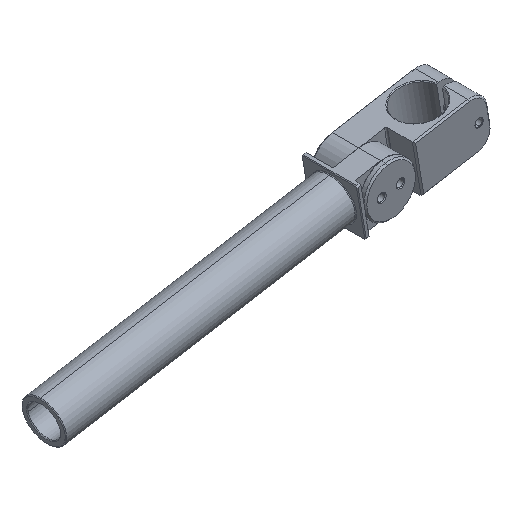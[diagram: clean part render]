
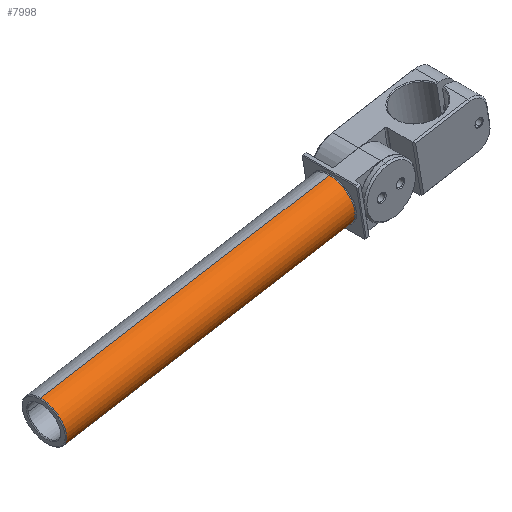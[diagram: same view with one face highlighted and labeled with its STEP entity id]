
A CAD part, isometric view. The second image highlights one B-rep face of the part: STEP entity #7998.
In plain terms, the highlighted cylindrical face has radius 15 mm (diameter 30 mm), a partial arc.
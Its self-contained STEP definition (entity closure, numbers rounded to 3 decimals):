
#518 = CARTESIAN_POINT ( 'NONE',  ( -210.487, 26.764, -83.005 ) ) ;
#695 = LINE ( 'NONE', #4764, #10386 ) ;
#720 = CYLINDRICAL_SURFACE ( 'NONE', #3135, 15. ) ;
#1299 = CIRCLE ( 'NONE', #3441, 15. ) ;
#1349 = VERTEX_POINT ( 'NONE', #5358 ) ;
#1492 = FACE_OUTER_BOUND ( 'NONE', #1937, .T. ) ;
#1726 = CIRCLE ( 'NONE', #7959, 15. ) ;
#1837 = CARTESIAN_POINT ( 'NONE',  ( -212.992, 26.764, -68.216 ) ) ;
#1937 = EDGE_LOOP ( 'NONE', ( #5385, #9503, #7260, #7620 ) ) ;
#2223 = CARTESIAN_POINT ( 'NONE',  ( -16.787, 26.764, -34.978 ) ) ;
#2403 = DIRECTION ( 'NONE',  ( 0.986, 0., 0.167 ) ) ;
#2673 = DIRECTION ( 'NONE',  ( 0.167, 0., -0.986 ) ) ;
#3135 = AXIS2_PLACEMENT_3D ( 'NONE', #6613, #5777, #4116 ) ;
#3407 = EDGE_CURVE ( 'NONE', #8776, #7631, #1726, .T. ) ;
#3432 = VERTEX_POINT ( 'NONE', #4300 ) ;
#3441 = AXIS2_PLACEMENT_3D ( 'NONE', #2223, #5519, #7296 ) ;
#4116 = DIRECTION ( 'NONE',  ( 0.167, 0., -0.986 ) ) ;
#4300 = CARTESIAN_POINT ( 'NONE',  ( -14.282, 26.764, -49.767 ) ) ;
#4648 = CARTESIAN_POINT ( 'NONE',  ( -210.487, 26.764, -83.005 ) ) ;
#4764 = CARTESIAN_POINT ( 'NONE',  ( -215.497, 26.764, -53.426 ) ) ;
#5358 = CARTESIAN_POINT ( 'NONE',  ( -19.293, 26.764, -20.189 ) ) ;
#5385 = ORIENTED_EDGE ( 'NONE', *, *, #10118, .F. ) ;
#5519 = DIRECTION ( 'NONE',  ( -0.986, 0., -0.167 ) ) ;
#5777 = DIRECTION ( 'NONE',  ( 0.986, 0., 0.167 ) ) ;
#6178 = VECTOR ( 'NONE', #8197, 1000. ) ;
#6613 = CARTESIAN_POINT ( 'NONE',  ( -212.992, 26.764, -68.216 ) ) ;
#7260 = ORIENTED_EDGE ( 'NONE', *, *, #8876, .T. ) ;
#7296 = DIRECTION ( 'NONE',  ( 0., -1., 0. ) ) ;
#7620 = ORIENTED_EDGE ( 'NONE', *, *, #9286, .T. ) ;
#7631 = VERTEX_POINT ( 'NONE', #8403 ) ;
#7959 = AXIS2_PLACEMENT_3D ( 'NONE', #1837, #8686, #2673 ) ;
#7998 = ADVANCED_FACE ( 'NONE', ( #1492 ), #720, .T. ) ;
#8197 = DIRECTION ( 'NONE',  ( 0.986, 0., 0.167 ) ) ;
#8252 = LINE ( 'NONE', #518, #6178 ) ;
#8403 = CARTESIAN_POINT ( 'NONE',  ( -215.497, 26.764, -53.426 ) ) ;
#8686 = DIRECTION ( 'NONE',  ( -0.986, 0., -0.167 ) ) ;
#8776 = VERTEX_POINT ( 'NONE', #4648 ) ;
#8876 = EDGE_CURVE ( 'NONE', #8776, #3432, #8252, .T. ) ;
#9286 = EDGE_CURVE ( 'NONE', #3432, #1349, #1299, .T. ) ;
#9503 = ORIENTED_EDGE ( 'NONE', *, *, #3407, .F. ) ;
#10118 = EDGE_CURVE ( 'NONE', #7631, #1349, #695, .T. ) ;
#10386 = VECTOR ( 'NONE', #2403, 1000. ) ;
